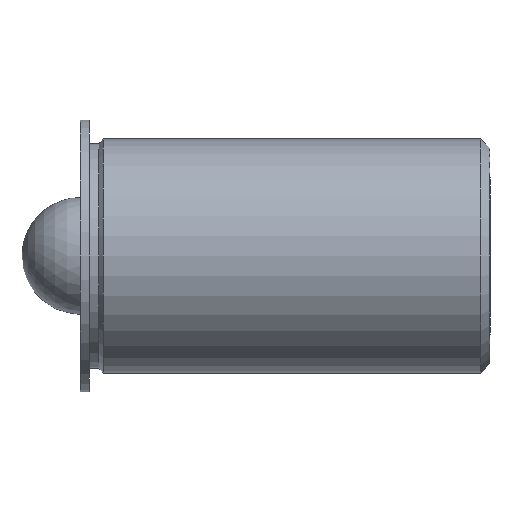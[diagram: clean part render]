
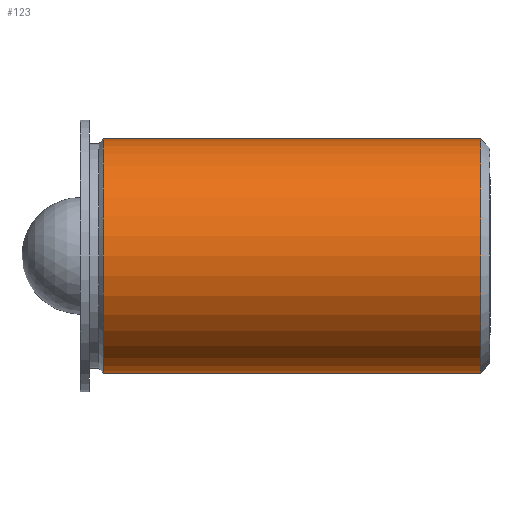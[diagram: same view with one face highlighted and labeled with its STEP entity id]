
A CAD part, front view. The second image highlights one B-rep face of the part: STEP entity #123.
In plain terms, the highlighted cylindrical face has radius 3.181 mm (diameter 6.363 mm), a partial arc.
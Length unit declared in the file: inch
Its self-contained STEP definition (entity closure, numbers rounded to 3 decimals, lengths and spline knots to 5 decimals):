
#4 = CYLINDRICAL_SURFACE ( 'NONE', #1201, 0.12525 ) ;
#6 = FACE_OUTER_BOUND ( 'NONE', #1355, .T. ) ;
#9 = CARTESIAN_POINT ( 'NONE',  ( 0.36926, 0.27647, 0.52876 ) ) ;
#28 = CARTESIAN_POINT ( 'NONE',  ( -0.03374, 0.27647, 0.27826 ) ) ;
#34 = LINE ( 'NONE', #978, #1343 ) ;
#87 = VERTEX_POINT ( 'NONE', #574 ) ;
#123 = ADVANCED_FACE ( 'NONE', ( #6 ), #4, .T. ) ;
#211 = AXIS2_PLACEMENT_3D ( 'NONE', #790, #784, #1509 ) ;
#213 = VERTEX_POINT ( 'NONE', #9 ) ;
#446 = ORIENTED_EDGE ( 'NONE', *, *, #581, .F. ) ;
#454 = ORIENTED_EDGE ( 'NONE', *, *, #539, .T. ) ;
#539 = EDGE_CURVE ( 'NONE', #87, #213, #715, .T. ) ;
#574 = CARTESIAN_POINT ( 'NONE',  ( 0.36926, 0.27647, 0.27826 ) ) ;
#581 = EDGE_CURVE ( 'NONE', #87, #1262, #1030, .T. ) ;
#593 = EDGE_CURVE ( 'NONE', #213, #959, #34, .T. ) ;
#679 = EDGE_CURVE ( 'NONE', #1262, #959, #966, .T. ) ;
#715 = CIRCLE ( 'NONE', #1254, 0.12525 ) ;
#784 = DIRECTION ( 'NONE',  ( -1., 0., 0. ) ) ;
#790 = CARTESIAN_POINT ( 'NONE',  ( -0.03374, 0.27647, 0.40351 ) ) ;
#812 = ORIENTED_EDGE ( 'NONE', *, *, #593, .T. ) ;
#882 = CARTESIAN_POINT ( 'NONE',  ( -0.03374, 0.27647, 0.52876 ) ) ;
#959 = VERTEX_POINT ( 'NONE', #882 ) ;
#966 = CIRCLE ( 'NONE', #211, 0.12525 ) ;
#978 = CARTESIAN_POINT ( 'NONE',  ( -0.05874, 0.27647, 0.52876 ) ) ;
#984 = DIRECTION ( 'NONE',  ( -1., 0., 0. ) ) ;
#1026 = DIRECTION ( 'NONE',  ( 0., 0., 1. ) ) ;
#1029 = DIRECTION ( 'NONE',  ( -1., 0., 0. ) ) ;
#1030 = LINE ( 'NONE', #1060, #1304 ) ;
#1032 = CARTESIAN_POINT ( 'NONE',  ( 0.36926, 0.27647, 0.40351 ) ) ;
#1035 = DIRECTION ( 'NONE',  ( -1., 0., 0. ) ) ;
#1060 = CARTESIAN_POINT ( 'NONE',  ( -0.05874, 0.27647, 0.27826 ) ) ;
#1121 = DIRECTION ( 'NONE',  ( 0., 0., 1. ) ) ;
#1193 = ORIENTED_EDGE ( 'NONE', *, *, #679, .F. ) ;
#1201 = AXIS2_PLACEMENT_3D ( 'NONE', #1350, #1479, #1121 ) ;
#1254 = AXIS2_PLACEMENT_3D ( 'NONE', #1032, #1029, #1026 ) ;
#1262 = VERTEX_POINT ( 'NONE', #28 ) ;
#1304 = VECTOR ( 'NONE', #984, 39.37008 ) ;
#1343 = VECTOR ( 'NONE', #1035, 39.37008 ) ;
#1350 = CARTESIAN_POINT ( 'NONE',  ( -0.05874, 0.27647, 0.40351 ) ) ;
#1355 = EDGE_LOOP ( 'NONE', ( #446, #454, #812, #1193 ) ) ;
#1479 = DIRECTION ( 'NONE',  ( -1., 0., 0. ) ) ;
#1509 = DIRECTION ( 'NONE',  ( 0., 0., 1. ) ) ;
